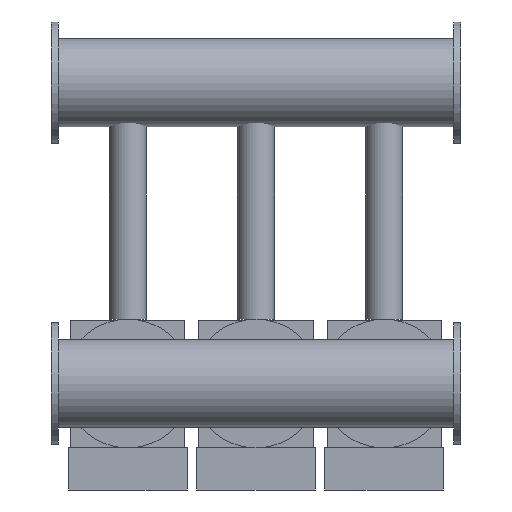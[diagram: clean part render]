
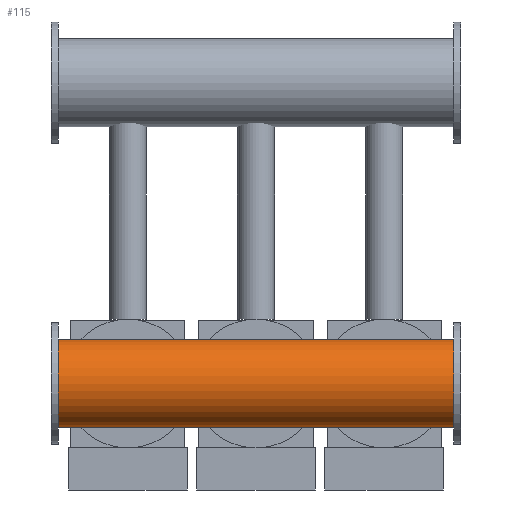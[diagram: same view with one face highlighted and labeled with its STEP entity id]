
A CAD part, front view. The second image highlights one B-rep face of the part: STEP entity #115.
In plain terms, the highlighted cylindrical face has radius 188.5 mm (diameter 377 mm), a full revolution.
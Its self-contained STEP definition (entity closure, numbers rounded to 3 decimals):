
#115 = ADVANCED_FACE('',(#116),#130,.T.);
#116 = FACE_BOUND('',#117,.F.);
#117 = EDGE_LOOP('',(#118,#148,#175,#176));
#118 = ORIENTED_EDGE('',*,*,#119,.T.);
#119 = EDGE_CURVE('',#120,#122,#124,.T.);
#120 = VERTEX_POINT('',#121);
#121 = CARTESIAN_POINT('',(0.,448.5,455.));
#122 = VERTEX_POINT('',#123);
#123 = CARTESIAN_POINT('',(1750.,448.5,455.));
#124 = SEAM_CURVE('',#125,(#129,#141),.PCURVE_S1.);
#125 = LINE('',#126,#127);
#126 = CARTESIAN_POINT('',(0.,448.5,455.));
#127 = VECTOR('',#128,1.);
#128 = DIRECTION('',(1.,0.,0.));
#129 = PCURVE('',#130,#135);
#130 = CYLINDRICAL_SURFACE('',#131,188.5);
#131 = AXIS2_PLACEMENT_3D('',#132,#133,#134);
#132 = CARTESIAN_POINT('',(0.,260.,455.));
#133 = DIRECTION('',(-1.,-0.,-0.));
#134 = DIRECTION('',(0.,1.,0.));
#135 = DEFINITIONAL_REPRESENTATION('',(#136),#140);
#136 = LINE('',#137,#138);
#137 = CARTESIAN_POINT('',(-0.,0.));
#138 = VECTOR('',#139,1.);
#139 = DIRECTION('',(-0.,-1.));
#140 = ( GEOMETRIC_REPRESENTATION_CONTEXT(2) 
PARAMETRIC_REPRESENTATION_CONTEXT() REPRESENTATION_CONTEXT('2D SPACE',''
  ) );
#141 = PCURVE('',#130,#142);
#142 = DEFINITIONAL_REPRESENTATION('',(#143),#147);
#143 = LINE('',#144,#145);
#144 = CARTESIAN_POINT('',(-6.283,0.));
#145 = VECTOR('',#146,1.);
#146 = DIRECTION('',(-0.,-1.));
#147 = ( GEOMETRIC_REPRESENTATION_CONTEXT(2) 
PARAMETRIC_REPRESENTATION_CONTEXT() REPRESENTATION_CONTEXT('2D SPACE',''
  ) );
#148 = ORIENTED_EDGE('',*,*,#149,.T.);
#149 = EDGE_CURVE('',#122,#122,#150,.T.);
#150 = SURFACE_CURVE('',#151,(#156,#163),.PCURVE_S1.);
#151 = CIRCLE('',#152,188.5);
#152 = AXIS2_PLACEMENT_3D('',#153,#154,#155);
#153 = CARTESIAN_POINT('',(1750.,260.,455.));
#154 = DIRECTION('',(1.,0.,0.));
#155 = DIRECTION('',(0.,1.,0.));
#156 = PCURVE('',#130,#157);
#157 = DEFINITIONAL_REPRESENTATION('',(#158),#162);
#158 = LINE('',#159,#160);
#159 = CARTESIAN_POINT('',(-0.,-1750.));
#160 = VECTOR('',#161,1.);
#161 = DIRECTION('',(-1.,0.));
#162 = ( GEOMETRIC_REPRESENTATION_CONTEXT(2) 
PARAMETRIC_REPRESENTATION_CONTEXT() REPRESENTATION_CONTEXT('2D SPACE',''
  ) );
#163 = PCURVE('',#164,#169);
#164 = PLANE('',#165);
#165 = AXIS2_PLACEMENT_3D('',#166,#167,#168);
#166 = CARTESIAN_POINT('',(1750.,260.,455.));
#167 = DIRECTION('',(1.,0.,0.));
#168 = DIRECTION('',(-0.,0.,1.));
#169 = DEFINITIONAL_REPRESENTATION('',(#170),#174);
#170 = CIRCLE('',#171,188.5);
#171 = AXIS2_PLACEMENT_2D('',#172,#173);
#172 = CARTESIAN_POINT('',(0.,0.));
#173 = DIRECTION('',(0.,-1.));
#174 = ( GEOMETRIC_REPRESENTATION_CONTEXT(2) 
PARAMETRIC_REPRESENTATION_CONTEXT() REPRESENTATION_CONTEXT('2D SPACE',''
  ) );
#175 = ORIENTED_EDGE('',*,*,#119,.F.);
#176 = ORIENTED_EDGE('',*,*,#177,.F.);
#177 = EDGE_CURVE('',#120,#120,#178,.T.);
#178 = SURFACE_CURVE('',#179,(#184,#191),.PCURVE_S1.);
#179 = CIRCLE('',#180,188.5);
#180 = AXIS2_PLACEMENT_3D('',#181,#182,#183);
#181 = CARTESIAN_POINT('',(0.,260.,455.));
#182 = DIRECTION('',(1.,0.,0.));
#183 = DIRECTION('',(0.,1.,0.));
#184 = PCURVE('',#130,#185);
#185 = DEFINITIONAL_REPRESENTATION('',(#186),#190);
#186 = LINE('',#187,#188);
#187 = CARTESIAN_POINT('',(-0.,0.));
#188 = VECTOR('',#189,1.);
#189 = DIRECTION('',(-1.,0.));
#190 = ( GEOMETRIC_REPRESENTATION_CONTEXT(2) 
PARAMETRIC_REPRESENTATION_CONTEXT() REPRESENTATION_CONTEXT('2D SPACE',''
  ) );
#191 = PCURVE('',#192,#197);
#192 = PLANE('',#193);
#193 = AXIS2_PLACEMENT_3D('',#194,#195,#196);
#194 = CARTESIAN_POINT('',(0.,260.,455.));
#195 = DIRECTION('',(1.,0.,0.));
#196 = DIRECTION('',(-0.,0.,1.));
#197 = DEFINITIONAL_REPRESENTATION('',(#198),#202);
#198 = CIRCLE('',#199,188.5);
#199 = AXIS2_PLACEMENT_2D('',#200,#201);
#200 = CARTESIAN_POINT('',(0.,0.));
#201 = DIRECTION('',(0.,-1.));
#202 = ( GEOMETRIC_REPRESENTATION_CONTEXT(2) 
PARAMETRIC_REPRESENTATION_CONTEXT() REPRESENTATION_CONTEXT('2D SPACE',''
  ) );
